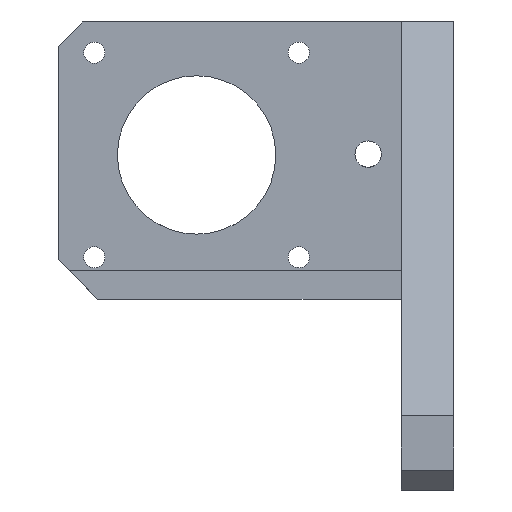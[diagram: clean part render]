
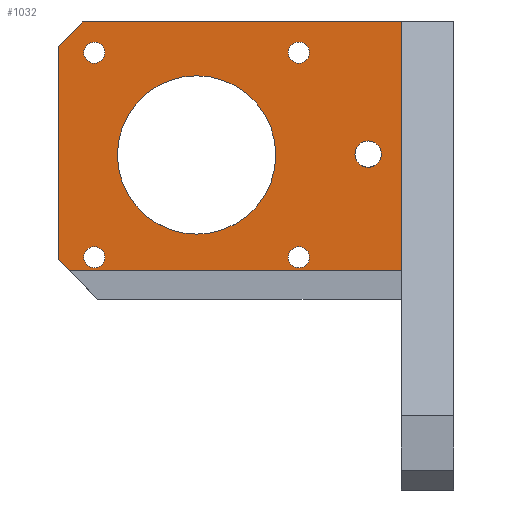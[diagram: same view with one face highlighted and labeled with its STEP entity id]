
A CAD part, left-side view. The second image highlights one B-rep face of the part: STEP entity #1032.
In plain terms, the highlighted planar face has unit normal (-1, 0, -0.001).
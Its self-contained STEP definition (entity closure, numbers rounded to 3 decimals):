
#41=FACE_BOUND('',#161,.T.);
#42=FACE_BOUND('',#162,.T.);
#43=FACE_BOUND('',#163,.T.);
#44=FACE_BOUND('',#164,.T.);
#45=FACE_BOUND('',#165,.T.);
#46=FACE_BOUND('',#166,.T.);
#66=CIRCLE('',#1106,1.6);
#67=CIRCLE('',#1107,1.6);
#68=CIRCLE('',#1108,1.6);
#69=CIRCLE('',#1109,1.6);
#70=CIRCLE('',#1110,2.);
#71=CIRCLE('',#1111,12.);
#101=FACE_OUTER_BOUND('',#160,.T.);
#160=EDGE_LOOP('',(#722,#723,#724,#725,#726,#727));
#161=EDGE_LOOP('',(#728));
#162=EDGE_LOOP('',(#729));
#163=EDGE_LOOP('',(#730));
#164=EDGE_LOOP('',(#731));
#165=EDGE_LOOP('',(#732));
#166=EDGE_LOOP('',(#733));
#229=LINE('',#1482,#339);
#243=LINE('',#1522,#353);
#245=LINE('',#1526,#355);
#246=LINE('',#1528,#356);
#247=LINE('',#1530,#357);
#248=LINE('',#1531,#358);
#339=VECTOR('',#1190,10.);
#353=VECTOR('',#1220,10.);
#355=VECTOR('',#1224,10.);
#356=VECTOR('',#1225,10.);
#357=VECTOR('',#1226,10.);
#358=VECTOR('',#1227,10.);
#449=VERTEX_POINT('',#1480);
#450=VERTEX_POINT('',#1481);
#468=VERTEX_POINT('',#1521);
#469=VERTEX_POINT('',#1525);
#470=VERTEX_POINT('',#1527);
#471=VERTEX_POINT('',#1529);
#472=VERTEX_POINT('',#1532);
#473=VERTEX_POINT('',#1534);
#474=VERTEX_POINT('',#1536);
#475=VERTEX_POINT('',#1538);
#476=VERTEX_POINT('',#1540);
#477=VERTEX_POINT('',#1542);
#548=EDGE_CURVE('',#449,#450,#229,.T.);
#568=EDGE_CURVE('',#450,#468,#243,.T.);
#570=EDGE_CURVE('',#469,#449,#245,.T.);
#571=EDGE_CURVE('',#470,#469,#246,.T.);
#572=EDGE_CURVE('',#470,#471,#247,.T.);
#573=EDGE_CURVE('',#468,#471,#248,.T.);
#574=EDGE_CURVE('',#472,#472,#66,.T.);
#575=EDGE_CURVE('',#473,#473,#67,.T.);
#576=EDGE_CURVE('',#474,#474,#68,.T.);
#577=EDGE_CURVE('',#475,#475,#69,.T.);
#578=EDGE_CURVE('',#476,#476,#70,.T.);
#579=EDGE_CURVE('',#477,#477,#71,.T.);
#722=ORIENTED_EDGE('',*,*,#548,.F.);
#723=ORIENTED_EDGE('',*,*,#570,.F.);
#724=ORIENTED_EDGE('',*,*,#571,.F.);
#725=ORIENTED_EDGE('',*,*,#572,.T.);
#726=ORIENTED_EDGE('',*,*,#573,.F.);
#727=ORIENTED_EDGE('',*,*,#568,.F.);
#728=ORIENTED_EDGE('',*,*,#574,.T.);
#729=ORIENTED_EDGE('',*,*,#575,.T.);
#730=ORIENTED_EDGE('',*,*,#576,.T.);
#731=ORIENTED_EDGE('',*,*,#577,.T.);
#732=ORIENTED_EDGE('',*,*,#578,.T.);
#733=ORIENTED_EDGE('',*,*,#579,.T.);
#998=PLANE('',#1105);
#1032=ADVANCED_FACE('',(#101,#41,#42,#43,#44,#45,#46),#998,.T.);
#1105=AXIS2_PLACEMENT_3D('',#1524,#1222,#1223);
#1106=AXIS2_PLACEMENT_3D('',#1533,#1228,#1229);
#1107=AXIS2_PLACEMENT_3D('',#1535,#1230,#1231);
#1108=AXIS2_PLACEMENT_3D('',#1537,#1232,#1233);
#1109=AXIS2_PLACEMENT_3D('',#1539,#1234,#1235);
#1110=AXIS2_PLACEMENT_3D('',#1541,#1236,#1237);
#1111=AXIS2_PLACEMENT_3D('',#1543,#1238,#1239);
#1190=DIRECTION('',(0.,0.707,0.707));
#1220=DIRECTION('',(-0.001,0.,1.));
#1222=DIRECTION('center_axis',(-1.,0.,-0.001));
#1223=DIRECTION('ref_axis',(-0.001,0.,1.));
#1224=DIRECTION('',(0.,1.,0.));
#1225=DIRECTION('',(0.001,0.,-1.));
#1226=DIRECTION('',(0.,1.,0.));
#1227=DIRECTION('',(0.,-0.707,0.707));
#1228=DIRECTION('center_axis',(1.,0.,0.001));
#1229=DIRECTION('ref_axis',(0.,-1.,0.));
#1230=DIRECTION('center_axis',(1.,0.,0.001));
#1231=DIRECTION('ref_axis',(0.,-1.,0.));
#1232=DIRECTION('center_axis',(1.,0.,0.001));
#1233=DIRECTION('ref_axis',(0.,-1.,0.));
#1234=DIRECTION('center_axis',(1.,0.,0.001));
#1235=DIRECTION('ref_axis',(0.,-1.,0.));
#1236=DIRECTION('center_axis',(1.,0.,0.001));
#1237=DIRECTION('ref_axis',(0.,-1.,0.));
#1238=DIRECTION('center_axis',(1.,0.,0.001));
#1239=DIRECTION('ref_axis',(0.,-1.,0.));
#1480=CARTESIAN_POINT('',(29.85,58.328,33.244));
#1481=CARTESIAN_POINT('',(29.849,60.,34.916));
#1482=CARTESIAN_POINT('',(29.857,45.081,19.997));
#1521=CARTESIAN_POINT('',(29.832,60.,67.266));
#1522=CARTESIAN_POINT('',(29.83,60.,70.916));
#1524=CARTESIAN_POINT('Origin',(29.85,8.,33.244));
#1525=CARTESIAN_POINT('',(29.85,8.,33.244));
#1526=CARTESIAN_POINT('',(29.85,8.,33.244));
#1527=CARTESIAN_POINT('',(29.83,8.,70.916));
#1528=CARTESIAN_POINT('',(29.849,8.,34.337));
#1529=CARTESIAN_POINT('',(29.83,56.35,70.916));
#1530=CARTESIAN_POINT('',(29.83,8.,70.916));
#1531=CARTESIAN_POINT('',(29.829,54.593,72.673));
#1532=CARTESIAN_POINT('',(29.832,25.1,66.266));
#1533=CARTESIAN_POINT('Origin',(29.832,23.5,66.266));
#1534=CARTESIAN_POINT('',(29.849,25.1,35.266));
#1535=CARTESIAN_POINT('Origin',(29.849,23.5,35.266));
#1536=CARTESIAN_POINT('',(29.832,56.1,66.266));
#1537=CARTESIAN_POINT('Origin',(29.832,54.5,66.266));
#1538=CARTESIAN_POINT('',(29.849,56.1,35.266));
#1539=CARTESIAN_POINT('Origin',(29.849,54.5,35.266));
#1540=CARTESIAN_POINT('',(29.841,15.,50.889));
#1541=CARTESIAN_POINT('Origin',(29.841,13.,50.889));
#1542=CARTESIAN_POINT('',(29.841,51.,50.766));
#1543=CARTESIAN_POINT('Origin',(29.841,39.,50.766));
